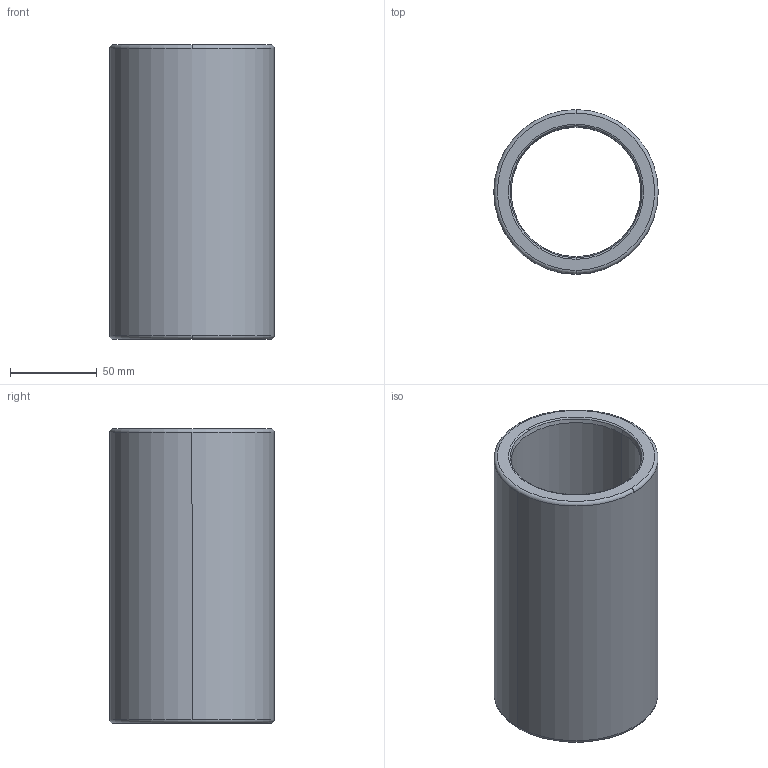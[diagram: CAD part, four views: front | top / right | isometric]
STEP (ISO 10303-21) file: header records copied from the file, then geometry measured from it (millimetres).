
FILE_DESCRIPTION((''),'2;1');
FILE_NAME('B30_063_170.stp','2009-01-12T10:41:18',(''),(''),'Mechanical Desktop 2009','Mechanical Desktop 2009',', , ');
FILE_SCHEMA(('CONFIG_CONTROL_DESIGN'));
Length unit declared in the file: millimetre
Products named in the file (2): Product; blmdl1
Assembly tree (1 placements, depth 2):
  Product
    blmdl1
Bounding box: 94.98 x 94.98 x 170 mm (x, y, z)
Volume: 453180.6 mm3; surface area: 95165.7 mm2
Topology: 1 solids, 1 shells, 18 faces, 48 edges, 32 vertices
Faces by surface type: torus 8, cylinder 4, cone 4, plane 2
Entity records: 705 total; most frequent: DIRECTION 128, CARTESIAN_POINT 100, ORIENTED_EDGE 96, AXIS2_PLACEMENT_3D 60, EDGE_CURVE 48, CIRCLE 40, VERTEX_POINT 32, EDGE_LOOP 20
